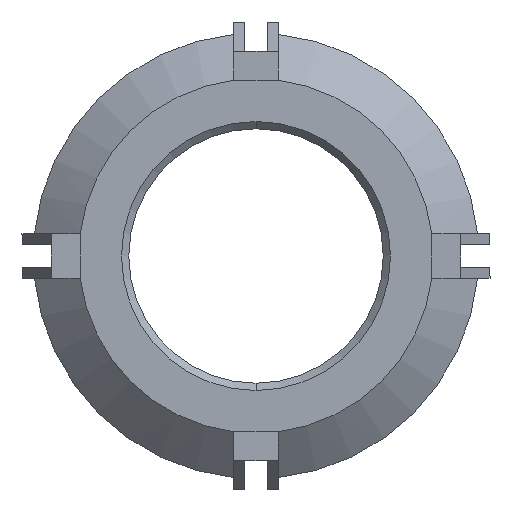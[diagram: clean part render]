
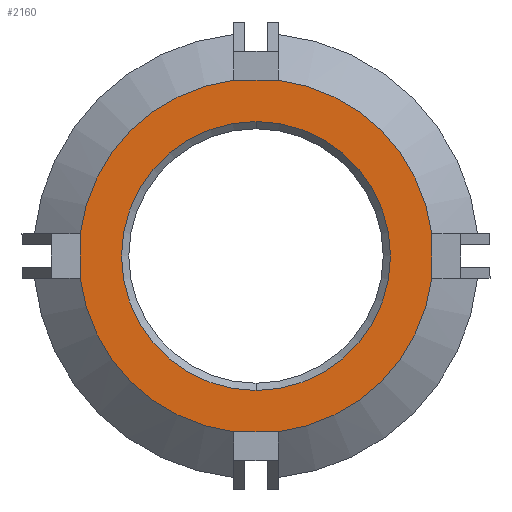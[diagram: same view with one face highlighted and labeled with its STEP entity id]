
A CAD part, front view. The second image highlights one B-rep face of the part: STEP entity #2160.
In plain terms, the highlighted planar face has unit normal (0, -1, 0).
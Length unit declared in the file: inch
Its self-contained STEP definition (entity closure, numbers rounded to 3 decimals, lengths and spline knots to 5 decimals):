
#52 = CARTESIAN_POINT ( 'NONE',  ( 0., 0., -0.13214 ) ) ;
#61 = VERTEX_POINT ( 'NONE', #1712 ) ;
#70 = ORIENTED_EDGE ( 'NONE', *, *, #655, .T. ) ;
#91 = EDGE_CURVE ( 'NONE', #1566, #362, #988, .T. ) ;
#226 = DIRECTION ( 'NONE',  ( 0., 0., -1. ) ) ;
#227 = CARTESIAN_POINT ( 'NONE',  ( 0., 0., 0. ) ) ;
#235 = CARTESIAN_POINT ( 'NONE',  ( -0.02188, 0., 0.17276 ) ) ;
#237 = ORIENTED_EDGE ( 'NONE', *, *, #1037, .F. ) ;
#247 = VECTOR ( 'NONE', #488, 39.37008 ) ;
#255 = ORIENTED_EDGE ( 'NONE', *, *, #91, .F. ) ;
#259 = CARTESIAN_POINT ( 'NONE',  ( -0.02187, 0., -0.17276 ) ) ;
#281 = ORIENTED_EDGE ( 'NONE', *, *, #926, .T. ) ;
#303 = DIRECTION ( 'NONE',  ( 0., -1., 0. ) ) ;
#335 = FACE_BOUND ( 'NONE', #1955, .T. ) ;
#356 = VERTEX_POINT ( 'NONE', #2137 ) ;
#362 = VERTEX_POINT ( 'NONE', #2407 ) ;
#377 = DIRECTION ( 'NONE',  ( 0., 1., 0. ) ) ;
#441 = CARTESIAN_POINT ( 'NONE',  ( 0., 0., 0. ) ) ;
#488 = DIRECTION ( 'NONE',  ( 1., 0., 0. ) ) ;
#520 = DIRECTION ( 'NONE',  ( 0., 0., -1. ) ) ;
#598 = DIRECTION ( 'NONE',  ( 0., 0., 1. ) ) ;
#609 = VECTOR ( 'NONE', #3227, 39.37008 ) ;
#655 = EDGE_CURVE ( 'NONE', #1608, #362, #3122, .T. ) ;
#668 = CIRCLE ( 'NONE', #2885, 0.17414 ) ;
#691 = VERTEX_POINT ( 'NONE', #1770 ) ;
#733 = VERTEX_POINT ( 'NONE', #1536 ) ;
#739 = CARTESIAN_POINT ( 'NONE',  ( 0.17276, 0., -0.02187 ) ) ;
#804 = DIRECTION ( 'NONE',  ( 0., 0., -1. ) ) ;
#841 = CARTESIAN_POINT ( 'NONE',  ( 0.17276, 0., 0.02188 ) ) ;
#925 = CIRCLE ( 'NONE', #2717, 0.17414 ) ;
#926 = EDGE_CURVE ( 'NONE', #1566, #691, #1538, .T. ) ;
#947 = ORIENTED_EDGE ( 'NONE', *, *, #3091, .T. ) ;
#988 = LINE ( 'NONE', #739, #1396 ) ;
#1001 = ORIENTED_EDGE ( 'NONE', *, *, #1063, .T. ) ;
#1005 = CARTESIAN_POINT ( 'NONE',  ( 0., 0., 0. ) ) ;
#1037 = EDGE_CURVE ( 'NONE', #1608, #733, #2235, .T. ) ;
#1063 = EDGE_CURVE ( 'NONE', #2397, #356, #925, .T. ) ;
#1067 = ORIENTED_EDGE ( 'NONE', *, *, #1579, .T. ) ;
#1070 = DIRECTION ( 'NONE',  ( 0., 1., 0. ) ) ;
#1090 = FACE_OUTER_BOUND ( 'NONE', #1776, .T. ) ;
#1121 = AXIS2_PLACEMENT_3D ( 'NONE', #1005, #2538, #3007 ) ;
#1174 = LINE ( 'NONE', #1208, #1636 ) ;
#1182 = ORIENTED_EDGE ( 'NONE', *, *, #2108, .T. ) ;
#1208 = CARTESIAN_POINT ( 'NONE',  ( -0.17276, 0., 0.02187 ) ) ;
#1306 = CARTESIAN_POINT ( 'NONE',  ( 0., 0., 0. ) ) ;
#1340 = PLANE ( 'NONE',  #2939 ) ;
#1381 = AXIS2_PLACEMENT_3D ( 'NONE', #1384, #377, #1895 ) ;
#1384 = CARTESIAN_POINT ( 'NONE',  ( 0., 0., 0. ) ) ;
#1396 = VECTOR ( 'NONE', #226, 39.37008 ) ;
#1509 = DIRECTION ( 'NONE',  ( 0., 0., -1. ) ) ;
#1536 = CARTESIAN_POINT ( 'NONE',  ( -0.02187, 0., -0.17276 ) ) ;
#1538 = CIRCLE ( 'NONE', #2222, 0.17414 ) ;
#1566 = VERTEX_POINT ( 'NONE', #841 ) ;
#1579 = EDGE_CURVE ( 'NONE', #2168, #2520, #1649, .T. ) ;
#1608 = VERTEX_POINT ( 'NONE', #3130 ) ;
#1636 = VECTOR ( 'NONE', #2211, 39.37008 ) ;
#1649 = CIRCLE ( 'NONE', #1381, 0.13214 ) ;
#1656 = AXIS2_PLACEMENT_3D ( 'NONE', #2123, #1070, #2894 ) ;
#1712 = CARTESIAN_POINT ( 'NONE',  ( -0.17276, 0., -0.02188 ) ) ;
#1770 = CARTESIAN_POINT ( 'NONE',  ( 0.02187, 0., 0.17276 ) ) ;
#1776 = EDGE_LOOP ( 'NONE', ( #1001, #1989, #1182, #237, #70, #255, #281, #3044 ) ) ;
#1895 = DIRECTION ( 'NONE',  ( 0., 0., 1. ) ) ;
#1898 = EDGE_CURVE ( 'NONE', #2397, #691, #1935, .T. ) ;
#1935 = LINE ( 'NONE', #3224, #247 ) ;
#1955 = EDGE_LOOP ( 'NONE', ( #947, #1067 ) ) ;
#1989 = ORIENTED_EDGE ( 'NONE', *, *, #2387, .F. ) ;
#2018 = CIRCLE ( 'NONE', #1656, 0.13214 ) ;
#2108 = EDGE_CURVE ( 'NONE', #61, #733, #668, .T. ) ;
#2109 = CARTESIAN_POINT ( 'NONE',  ( 0., 0., 0. ) ) ;
#2123 = CARTESIAN_POINT ( 'NONE',  ( 0., 0., 0. ) ) ;
#2137 = CARTESIAN_POINT ( 'NONE',  ( -0.17276, 0., 0.02187 ) ) ;
#2160 = ADVANCED_FACE ( 'NONE', ( #335, #1090 ), #1340, .F. ) ;
#2168 = VERTEX_POINT ( 'NONE', #2642 ) ;
#2211 = DIRECTION ( 'NONE',  ( 0., 0., 1. ) ) ;
#2222 = AXIS2_PLACEMENT_3D ( 'NONE', #441, #2449, #1509 ) ;
#2235 = LINE ( 'NONE', #259, #609 ) ;
#2387 = EDGE_CURVE ( 'NONE', #61, #356, #1174, .T. ) ;
#2397 = VERTEX_POINT ( 'NONE', #235 ) ;
#2407 = CARTESIAN_POINT ( 'NONE',  ( 0.17276, 0., -0.02187 ) ) ;
#2449 = DIRECTION ( 'NONE',  ( 0., -1., 0. ) ) ;
#2520 = VERTEX_POINT ( 'NONE', #52 ) ;
#2538 = DIRECTION ( 'NONE',  ( 0., -1., 0. ) ) ;
#2642 = CARTESIAN_POINT ( 'NONE',  ( 0., 0., 0.13214 ) ) ;
#2717 = AXIS2_PLACEMENT_3D ( 'NONE', #227, #2787, #520 ) ;
#2787 = DIRECTION ( 'NONE',  ( 0., -1., 0. ) ) ;
#2861 = DIRECTION ( 'NONE',  ( 0., 1., 0. ) ) ;
#2885 = AXIS2_PLACEMENT_3D ( 'NONE', #1306, #303, #804 ) ;
#2894 = DIRECTION ( 'NONE',  ( 0., 0., 1. ) ) ;
#2939 = AXIS2_PLACEMENT_3D ( 'NONE', #2109, #2861, #598 ) ;
#3007 = DIRECTION ( 'NONE',  ( 0., 0., -1. ) ) ;
#3044 = ORIENTED_EDGE ( 'NONE', *, *, #1898, .F. ) ;
#3091 = EDGE_CURVE ( 'NONE', #2520, #2168, #2018, .T. ) ;
#3122 = CIRCLE ( 'NONE', #1121, 0.17414 ) ;
#3130 = CARTESIAN_POINT ( 'NONE',  ( 0.02188, 0., -0.17276 ) ) ;
#3224 = CARTESIAN_POINT ( 'NONE',  ( 0.02187, 0., 0.17276 ) ) ;
#3227 = DIRECTION ( 'NONE',  ( -1., 0., 0. ) ) ;
